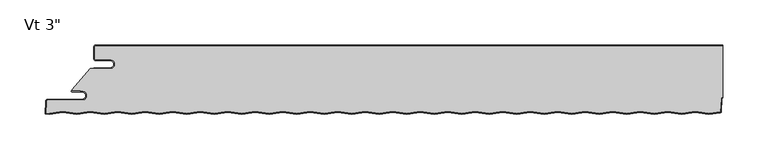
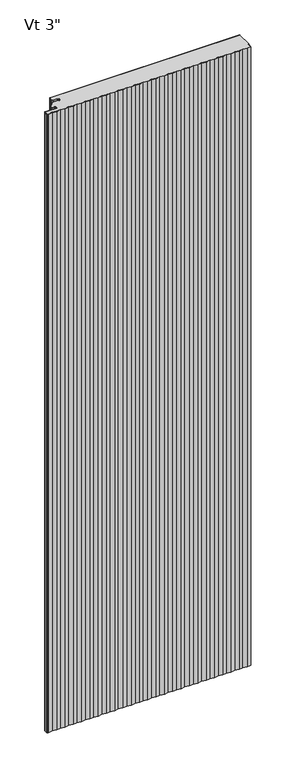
"""IFC4 building model written with IfcOpenShell, lengths in millimetres: plate geometry."""

from ifc_helpers import new_model, si_unit, point, frame_2d, origin, origin_with_axes, place, context, project, spatial, polyline, circle_curve, trimmed, segment, composite_curve, outline, extrude, source, transform, mapped, element, save


def plate_840cddba(model_context):
    return source(origin(), model_context, "Body", "SweptSolid", [
        extrude(outline(composite_curve([segment(polyline([(-329.9499998, -16.4625), (-345.8249998, -16.4625)]), True, "CONTINUOUS"), segment(trimmed(circle_curve(frame_2d((-345.8249998, -15.08125)), 1.38125), [point((-345.8249998, -16.4625))], [point((-347.2062498, -15.08125))], False, "CARTESIAN"), True, "CONTINUOUS"), segment(polyline([(-347.2062498, -15.08125), (-347.2062498, -2.38125)]), True, "CONTINUOUS"), segment(trimmed(circle_curve(frame_2d((-345.8249998, -2.38125)), 1.38125), [point((-347.2062498, -2.38125))], [point((-345.8249998, -1.0))], False, "CARTESIAN"), True, "CONTINUOUS"), segment(polyline([(-345.8249998, -1.0), (348.9999998, -1.0), (348.9999998, -57.791556)]), True, "CONTINUOUS"), segment(trimmed(circle_curve(frame_2d((349.5261348, -60.325)), 2.5875), [point((348.9999998, -57.791556))], [point((346.9421809, -60.1895807))], True, "CARTESIAN"), True, "CONTINUOUS"), segment(polyline([(346.9421809, -60.1895807), (346.2043986, -74.2673048), (333.4662502, -76.3054086), (318.4288176, -73.8994194), (303.1888176, -76.3378194), (287.9488176, -73.8994194), (272.7088176, -76.3378194), (257.4688176, -73.8994194), (242.2288176, -76.3378194), (226.9888176, -73.8994194), (211.7488176, -76.3378194), (196.5088176, -73.8994194), (181.2688176, -76.3378194), (166.0288176, -73.8994194), (150.7888176, -76.3378194), (135.5488176, -73.8994194), (120.3088176, -76.3378194), (105.0688176, -73.8994194), (89.8288176, -76.3378194), (74.5888176, -73.8994194), (59.3488176, -76.3378194), (44.1088176, -73.8994194), (28.8688176, -76.3378194), (13.6288176, -73.8994194), (-1.6111824, -76.3378194), (-16.8511824, -73.8994194), (-32.0911824, -76.3378194), (-47.3311824, -73.8994194), (-62.5711824, -76.3378194), (-77.8111824, -73.8994194), (-93.0511824, -76.3378194), (-108.2911824, -73.8994194), (-123.5311824, -76.3378194), (-138.7711824, -73.8994194), (-154.0111824, -76.3378194), (-169.2511824, -73.8994194), (-184.4911824, -76.3378194), (-199.7311824, -73.8994194), (-214.9711824, -76.3378194), (-230.2111824, -73.8994194), (-245.4511824, -76.3378194), (-260.6911824, -73.8994194), (-275.9311824, -76.3378194), (-291.1711824, -73.8994194), (-306.4111824, -76.3378194), (-321.6511824, -73.8994194), (-336.8911824, -76.3378194), (-352.1311824, -73.8994194), (-367.3711824, -76.3378194), (-382.6111824, -73.8994194), (-397.8511824, -76.3378194), (-401.1735092, -75.8062471), (-400.483179, -62.633961)]), True, "CONTINUOUS"), segment(trimmed(circle_curve(frame_2d((-399.1038219, -62.70625)), 1.38125), [point((-400.483179, -62.633961))], [point((-399.1038219, -61.325))], False, "CARTESIAN"), True, "CONTINUOUS"), segment(polyline([(-399.1038219, -61.325), (-360.9205173, -61.325)]), True, "CONTINUOUS"), segment(trimmed(circle_curve(frame_2d((-360.9205173, -56.35625)), 4.96875), [point((-360.9205173, -61.325))], [point((-360.9205173, -51.3875))], True, "CARTESIAN"), True, "CONTINUOUS"), segment(polyline([(-360.9205173, -51.3875), (-362.5080173, -51.59375), (-362.5080173, -50.8), (-372.0187498, -50.8), (-372.0187498, -49.2157227), (-352.1323421, -26.4), (-329.9499998, -26.4)]), True, "CONTINUOUS"), segment(trimmed(circle_curve(frame_2d((-329.9499998, -21.43125)), 4.96875), [point((-329.9499998, -26.4))], [point((-329.9499998, -16.4625))], True, "CARTESIAN"), True, "CONTINUOUS")], self_intersect=False)), origin_with_axes(), (0.0, 0.0, 1.0), 2400.0),
        extrude(outline(composite_curve([segment(polyline([(-348.2062498, -25.4), (-329.9499998, -25.4)]), True, "CONTINUOUS"), segment(trimmed(circle_curve(frame_2d((-329.9499998, -21.43125)), 3.96875), [point((-329.9499998, -25.4))], [point((-329.9499998, -17.4625))], True, "CARTESIAN"), True, "CONTINUOUS"), segment(polyline([(-329.9499998, -17.4625), (-345.8249998, -17.4625)]), True, "CONTINUOUS"), segment(trimmed(circle_curve(frame_2d((-345.8249998, -15.08125)), 2.38125), [point((-345.8249998, -17.4625))], [point((-348.2062498, -15.08125))], False, "CARTESIAN"), True, "CONTINUOUS"), segment(polyline([(-348.2062498, -15.08125), (-348.2062498, -2.38125)]), True, "CONTINUOUS"), segment(trimmed(circle_curve(frame_2d((-345.8249998, -2.38125)), 2.38125), [point((-348.2062498, -2.38125))], [point((-345.8249998, 0.0))], False, "CARTESIAN"), True, "CONTINUOUS"), segment(polyline([(-345.8249998, 0.0), (348.9999998, 0.0), (348.9999998, -1.0), (-345.8249998, -1.0)]), True, "CONTINUOUS"), segment(trimmed(circle_curve(frame_2d((-345.8249998, -2.38125)), 1.38125), [point((-345.8249998, -1.0))], [point((-347.2062498, -2.38125))], True, "CARTESIAN"), True, "CONTINUOUS"), segment(polyline([(-347.2062498, -2.38125), (-347.2062498, -15.08125)]), True, "CONTINUOUS"), segment(trimmed(circle_curve(frame_2d((-345.8249998, -15.08125)), 1.38125), [point((-347.2062498, -15.08125))], [point((-345.8249998, -16.4625))], True, "CARTESIAN"), True, "CONTINUOUS"), segment(polyline([(-345.8249998, -16.4625), (-329.9499998, -16.4625)]), True, "CONTINUOUS"), segment(trimmed(circle_curve(frame_2d((-329.9499998, -21.43125)), 4.96875), [point((-329.9499998, -16.4625))], [point((-329.9499998, -26.4))], False, "CARTESIAN"), True, "CONTINUOUS"), segment(polyline([(-329.9499998, -26.4), (-348.2062498, -26.4), (-348.2062498, -25.4)]), True, "CONTINUOUS")], self_intersect=False)), origin_with_axes(), (0.0, 0.0, 1.0), 2400.0),
        extrude(outline(composite_curve([segment(polyline([(-372.2314548, -50.8), (-362.5080173, -50.8), (-362.5080173, -51.59375), (-360.9205173, -51.3875)]), True, "CONTINUOUS"), segment(trimmed(circle_curve(frame_2d((-360.9205173, -56.35625)), 4.96875), [point((-360.9205173, -51.3875))], [point((-360.9205173, -61.325))], False, "CARTESIAN"), True, "CONTINUOUS"), segment(polyline([(-360.9205173, -61.325), (-399.1038219, -61.325)]), True, "CONTINUOUS"), segment(trimmed(circle_curve(frame_2d((-399.1038219, -62.70625)), 1.38125), [point((-399.1038219, -61.325))], [point((-400.483179, -62.633961))], True, "CARTESIAN"), True, "CONTINUOUS"), segment(polyline([(-400.483179, -62.633961), (-401.1788914, -75.9089447), (-397.8709185, -76.4382204), (-382.6309185, -73.9998204), (-367.3909185, -76.4382204), (-352.1509185, -73.9998204), (-336.9109185, -76.4382204), (-321.6709185, -73.9998204), (-306.4309185, -76.4382204), (-291.1909185, -73.9998204), (-275.9509185, -76.4382204), (-260.7109185, -73.9998204), (-245.4709185, -76.4382204), (-230.2309185, -73.9998204), (-214.9909185, -76.4382204), (-199.7509185, -73.9998204), (-184.5109185, -76.4382204), (-169.2709185, -73.9998204), (-154.0309185, -76.4382204), (-138.7909185, -73.9998204), (-123.5509185, -76.4382204), (-108.3109185, -73.9998204), (-93.0709185, -76.4382204), (-77.8309185, -73.9998204), (-62.5909185, -76.4382204), (-47.3509185, -73.9998204), (-32.1109185, -76.4382204), (-16.8709185, -73.9998204), (-1.6309185, -76.4382204), (13.6090815, -73.9998204), (28.8490815, -76.4382204), (44.0890815, -73.9998204), (59.3290815, -76.4382204), (74.5690815, -73.9998204), (89.8090815, -76.4382204), (105.0490815, -73.9998204), (120.2890815, -76.4382204), (135.5290815, -73.9998204), (150.7690815, -76.4382204), (166.0090815, -73.9998204), (181.2490815, -76.4382204), (196.4890815, -73.9998204), (211.7290815, -76.4382204), (226.9690815, -73.9998204), (242.2090815, -76.4382204), (257.4490815, -73.9998204), (272.6890815, -76.4382204), (287.9290815, -73.9998204), (303.1690815, -76.4382204), (318.4090815, -73.9998204), (333.4465141, -76.4058096), (345.7302425, -74.440413)]), True, "CONTINUOUS"), segment(trimmed(circle_curve(frame_2d((345.637423, -73.8602917)), 0.5875), [point((345.7302425, -74.440413))], [point((346.2241179, -73.891039))], True, "CARTESIAN"), True, "CONTINUOUS"), segment(polyline([(346.2241179, -73.891039), (346.9421809, -60.1895807)]), True, "CONTINUOUS"), segment(trimmed(circle_curve(frame_2d((349.5261348, -60.325)), 2.5875), [point((346.9421809, -60.1895807))], [point((348.9999998, -57.791556))], False, "CARTESIAN"), True, "CONTINUOUS"), segment(polyline([(348.9999998, -57.791556), (348.9999998, -58.8272222)]), True, "CONTINUOUS"), segment(trimmed(circle_curve(frame_2d((349.5261348, -60.325)), 1.5875), [point((348.9999998, -58.8272222))], [point((347.9408104, -60.2419167))], True, "CARTESIAN"), True, "CONTINUOUS"), segment(polyline([(347.9408104, -60.2419167), (347.2227474, -73.943375)]), True, "CONTINUOUS"), segment(trimmed(circle_curve(frame_2d((345.637423, -73.8602917)), 1.5875), [point((347.2227474, -73.943375))], [point((345.888233, -75.4278537))], False, "CARTESIAN"), True, "CONTINUOUS"), segment(polyline([(345.888233, -75.4278537), (333.4465141, -77.4185287), (318.4090815, -75.0125395), (303.1690815, -77.4509395), (287.9290815, -75.0125395), (272.6890815, -77.4509395), (257.4490815, -75.0125395), (242.2090815, -77.4509395), (226.9690815, -75.0125395), (211.7290815, -77.4509395), (196.4890815, -75.0125395), (181.2490815, -77.4509395), (166.0090815, -75.0125395), (150.7690815, -77.4509395), (135.5290815, -75.0125395), (120.2890815, -77.4509395), (105.0490815, -75.0125395), (89.8090815, -77.4509395), (74.5690815, -75.0125395), (59.3290815, -77.4509395), (44.0890815, -75.0125395), (28.8490815, -77.4509395), (13.6090815, -75.0125395), (-1.6309185, -77.4509395), (-16.8709185, -75.0125395), (-32.1109185, -77.4509395), (-47.3509185, -75.0125395), (-62.5909185, -77.4509395), (-77.8309185, -75.0125395), (-93.0709185, -77.4509395), (-108.3109185, -75.0125395), (-123.5509185, -77.4509395), (-138.7909185, -75.0125395), (-154.0309185, -77.4509395), (-169.2709185, -75.0125395), (-184.5109185, -77.4509395), (-199.7509185, -75.0125395), (-214.9909185, -77.4509395), (-230.2309185, -75.0125395), (-245.4709185, -77.4509395), (-260.7109185, -75.0125395), (-275.9509185, -77.4509395), (-291.1909185, -75.0125395), (-306.4309185, -77.4509395), (-321.6709185, -75.0125395), (-336.9109185, -77.4509395), (-352.1509185, -75.0125395), (-367.3909185, -77.4509395), (-382.6309185, -75.0125395), (-397.8709185, -77.4509395), (-402.2245698, -76.7543553), (-401.4818085, -62.581625)]), True, "CONTINUOUS"), segment(trimmed(circle_curve(frame_2d((-399.1038219, -62.70625)), 2.38125), [point((-401.4818085, -62.581625))], [point((-399.1038219, -60.325))], False, "CARTESIAN"), True, "CONTINUOUS"), segment(polyline([(-399.1038219, -60.325), (-360.9205173, -60.325)]), True, "CONTINUOUS"), segment(trimmed(circle_curve(frame_2d((-360.9205173, -56.35625)), 3.96875), [point((-360.9205173, -60.325))], [point((-360.9205173, -52.3875))], True, "CARTESIAN"), True, "CONTINUOUS"), segment(polyline([(-360.9205173, -52.3875), (-372.2314548, -52.3875)]), True, "CONTINUOUS"), segment(trimmed(circle_curve(frame_2d((-372.2314548, -51.59375)), 0.79375), [point((-372.2314548, -52.3875))], [point((-372.2314548, -50.8))], False, "CARTESIAN"), True, "CONTINUOUS")], self_intersect=False)), origin_with_axes(), (0.0, 0.0, 1.0), 2400.0),
    ])


if __name__ == "__main__":
    model = new_model("IFC4")
    model_context = context("Model", 3, world=origin())
    ifc_project = project(units=[si_unit("LENGTHUNIT", "METRE", prefix="MILLI")], contexts=[model_context])
    site = spatial("IfcSite", under=ifc_project)
    building = spatial("IfcBuilding", under=site)
    placement = place(None, origin())
    plate_shape = plate_840cddba(model_context)
    element("IfcPlate", 1, ObjectType="KIP-30-DWHR-R19-CP-Vt-S : Vt 3\"", at=placement, inside=building, context=model_context, shape_type="MappedRepresentation", body=[
        mapped(plate_shape, transform((0.0, 0.0, 0.0), x_axis=(1.0, 0.0, 0.0), y_axis=(0.0, 1.0, 0.0), z_axis=(0.0, 0.0, 1.0))),
    ])
    save(model, "model.ifc")
